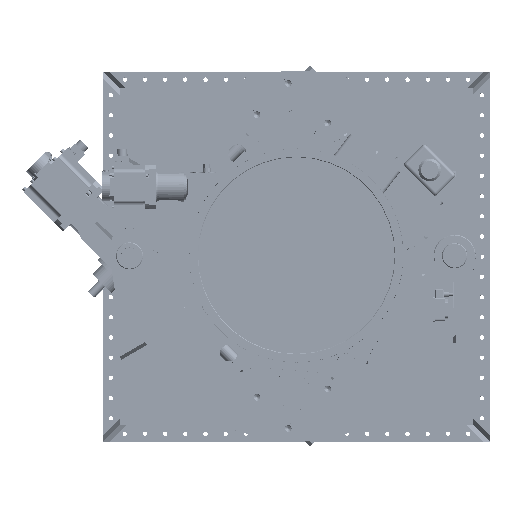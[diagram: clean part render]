
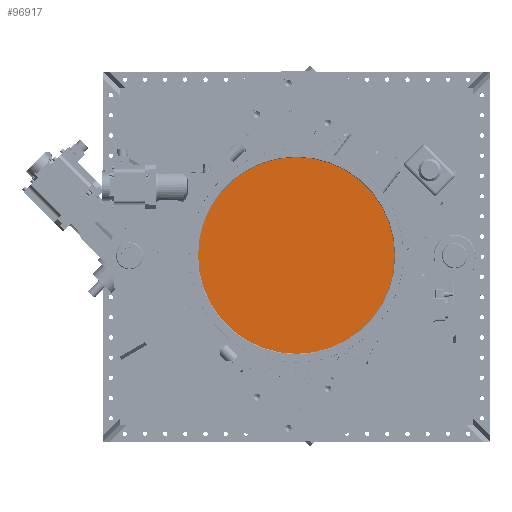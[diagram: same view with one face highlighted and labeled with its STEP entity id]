
A CAD part, top view. The second image highlights one B-rep face of the part: STEP entity #96917.
In plain terms, the highlighted planar face has unit normal (0, 0, 1).
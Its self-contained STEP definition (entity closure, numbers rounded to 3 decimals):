
#3498=PLANE('',#105932);
#10664=FACE_OUTER_BOUND('',#16370,.T.);
#16370=EDGE_LOOP('',(#78729));
#21762=CIRCLE('',#105667,292.1);
#41924=VERTEX_POINT('',#169207);
#54485=EDGE_CURVE('',#41924,#41924,#21762,.T.);
#78729=ORIENTED_EDGE('',*,*,#54485,.F.);
#96917=ADVANCED_FACE('',(#10664),#3498,.T.);
#105667=AXIS2_PLACEMENT_3D('',#169209,#127271,#127272);
#105932=AXIS2_PLACEMENT_3D('',#170421,#127908,#127909);
#127271=DIRECTION('center_axis',(0.,0.,
-1.));
#127272=DIRECTION('ref_axis',(-0.5,0.866,0.));
#127908=DIRECTION('center_axis',(0.,0.,
1.));
#127909=DIRECTION('ref_axis',(0.5,-0.866,0.));
#169207=CARTESIAN_POINT('',(146.05,-252.966,2173.65));
#169209=CARTESIAN_POINT('Origin',(0.,0.,
2173.65));
#170421=CARTESIAN_POINT('Origin',(0.,0.,
2173.65));
